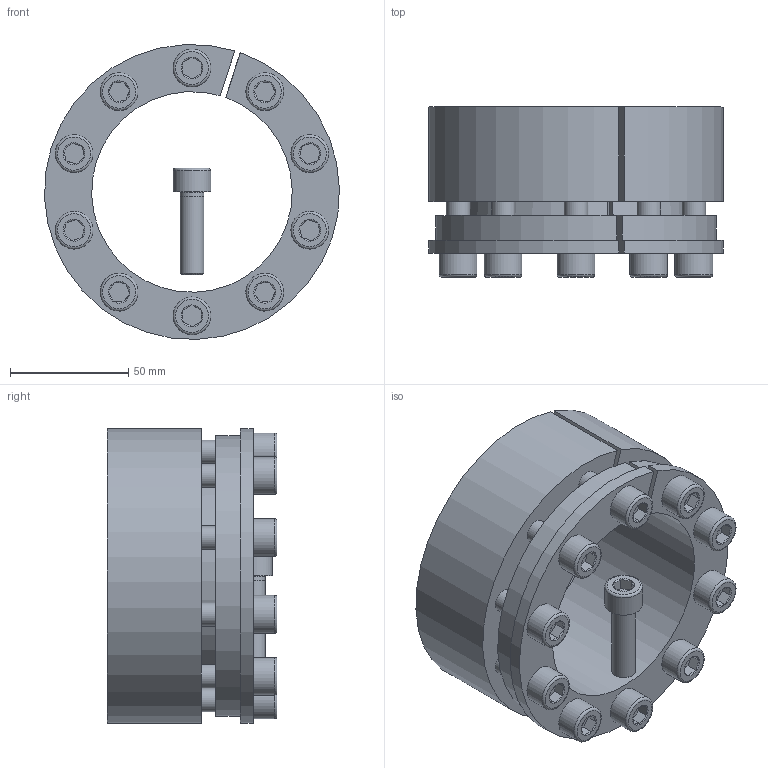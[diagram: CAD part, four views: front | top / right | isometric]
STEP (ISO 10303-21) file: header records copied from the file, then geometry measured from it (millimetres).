
FILE_DESCRIPTION( ( 'Unknown' ), '1' );
FILE_NAME( 'C:/Dokumente und Einstellungen/Sven/Desktop/homepage/cad - homepage/KBS70/KBS 70 - 85 x 125.stp', 'Unknown', ( 'Unknown' ), ( 'Unknown' ), 'XStep 1.0', 'Unknown', ' ' );
FILE_SCHEMA( ( 'automotive_design' ) );
Length unit declared in the file: millimetre
Products named in the file (3): Assem1; KBS 70 - 85 x 125; ISO EN DIN 4762 M10x35
Bounding box: 124.93 x 72 x 124.88 mm (x, y, z)
Volume: 683608 mm3; surface area: 184276.1 mm2
Topology: 13 solids, 13 shells, 343 faces, 703 edges, 430 vertices
Faces by surface type: plane 148, cylinder 92, cone 81, torus 22
Full cylindrical faces by diameter (mm): 9 x11, 10 x62, 16 x11
Entity records: 1990 total; most frequent: CARTESIAN_POINT 327, DIRECTION 312, ORIENTED_EDGE 222, AXIS2_PLACEMENT_3D 140, EDGE_LOOP 130, EDGE_CURVE 111, VERTEX_POINT 87, FACE_OUTER_BOUND 85
